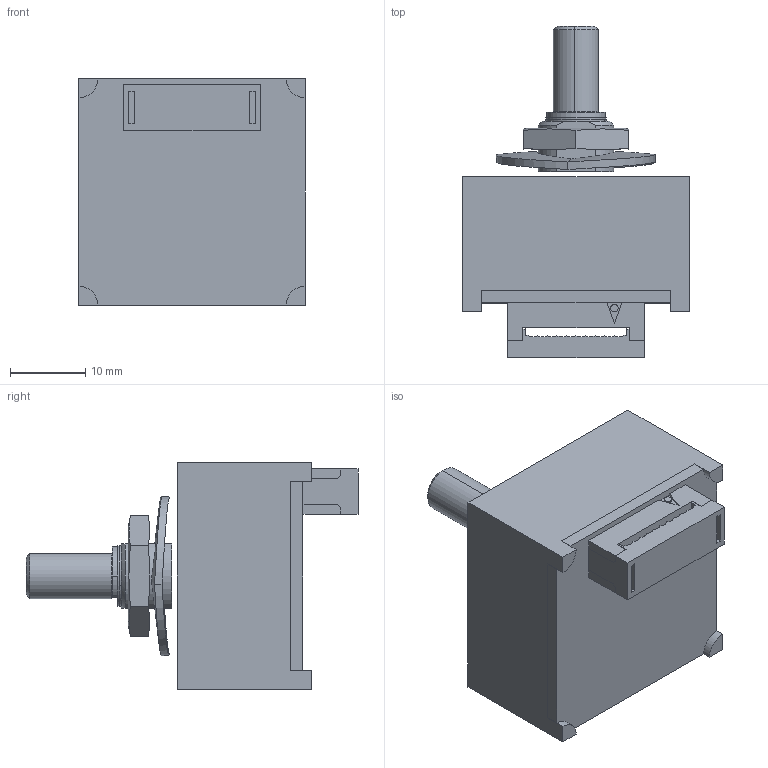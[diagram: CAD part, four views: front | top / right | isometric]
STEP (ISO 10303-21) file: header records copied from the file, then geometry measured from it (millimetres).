
FILE_DESCRIPTION (( 'STEP AP214' ), '1' );
FILE_NAME ('CESI16-32 reduziert .STEP', '2024-02-19T09:03:28', ( '' ), ( '' ), 'SwSTEP 2.0', 'SolidWorks 2023', '' );
FILE_SCHEMA (( 'AUTOMOTIVE_DESIGN' ));
Length unit declared in the file: millimetre
Products named in the file (1): CESI16-32 reduziert 
Bounding box: 30 x 44.05 x 30 mm (x, y, z)
Surface area: 5504 mm2 (no closed solid volume)
Topology: 0 solids, 12 shells, 105 faces, 455 edges, 359 vertices
Faces by surface type: plane 58, cylinder 33, bspline 8, cone 6
Entity records: 4995 total; most frequent: CARTESIAN_POINT 1338, DIRECTION 752, ORIENTED_EDGE 634, EDGE_CURVE 455, VERTEX_POINT 359, VECTOR 294, LINE 294, AXIS2_PLACEMENT_3D 229
